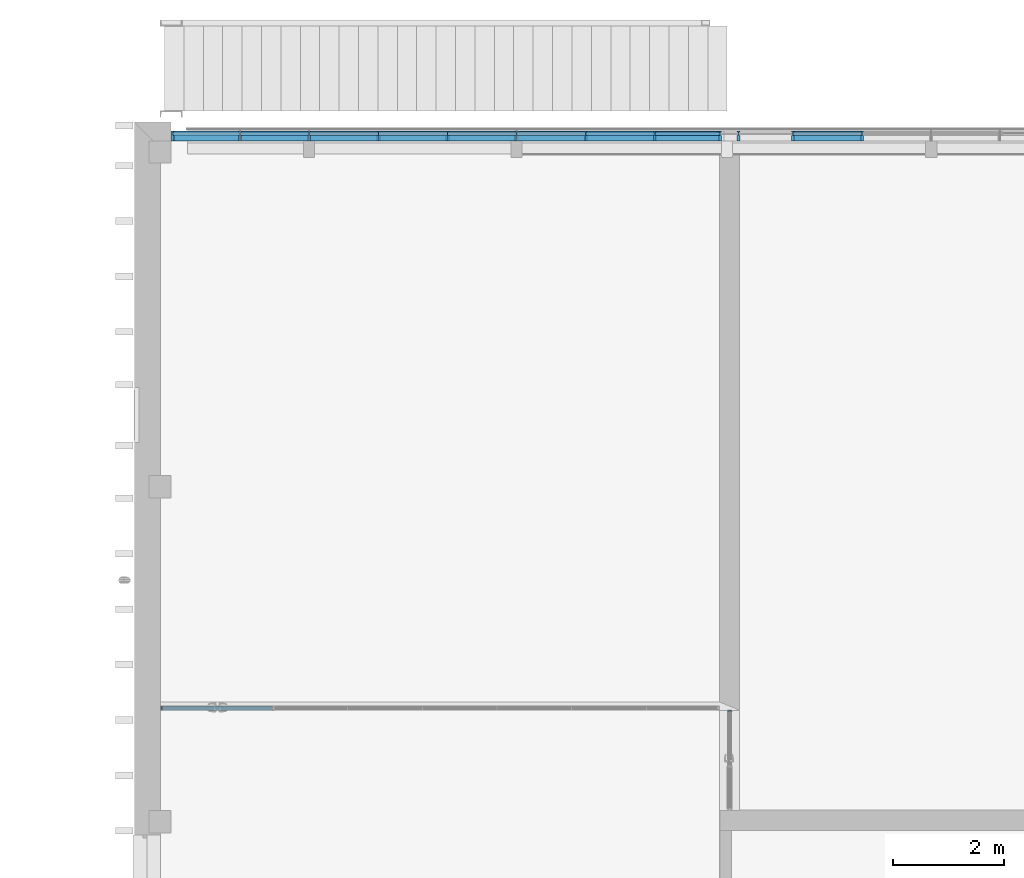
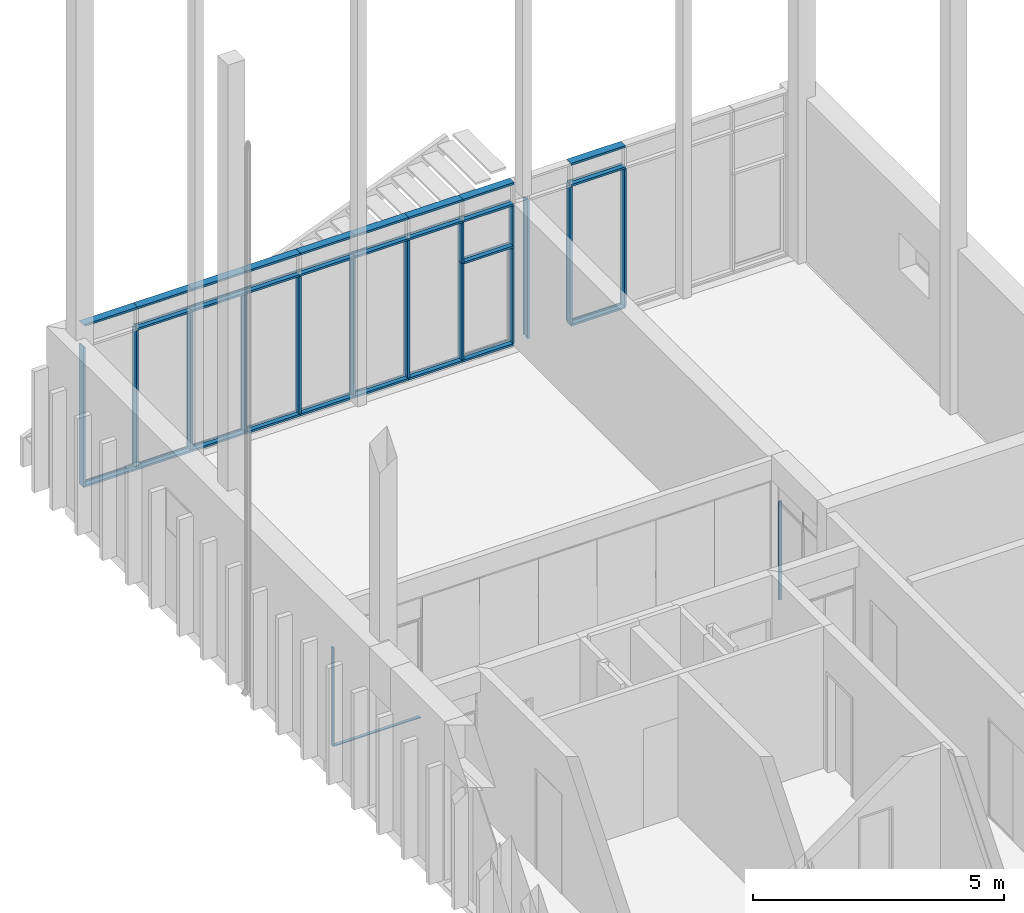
# One storey, part 6 of 89: 44 members, 3 elements without a shape of their own.
"""IFC2X3 building model written with IfcOpenShell, lengths in millimetres."""

from ifc_helpers import new_model, entity, si_unit, converted_unit, derived_unit, money_unit, direction, frame, origin_with_axes, place, context, subcontext, project, spatial, polyline, outline, extrude, clip, halfspace, material, type_object, element, aggregate, save


model = new_model("IFC2X3")

# Units and contexts
model_context = context("Model", 3, precision=0.01, world=origin_with_axes(), true_north=direction((0.0, 1.0)))
body_context = subcontext(model_context, "Body", "Model", "MODEL_VIEW")
ifc_project = project(units=[si_unit("LENGTHUNIT", "METRE", prefix="MILLI"), si_unit("AREAUNIT", "SQUARE_METRE"), si_unit("VOLUMEUNIT", "CUBIC_METRE"), converted_unit("PLANEANGLEUNIT", "DEGREE", entity("IfcPlaneAngleMeasure", 0.0174532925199), si_unit("PLANEANGLEUNIT", "RADIAN"), dimensions=[0, 0, 0, 0, 0, 0, 0]), si_unit("SOLIDANGLEUNIT", "STERADIAN"), money_unit("EUR"), converted_unit("TIMEUNIT", "Year", entity("IfcTimeMeasure", 31556926.0), si_unit("TIMEUNIT", "SECOND"), dimensions=[0, 0, 1, 0, 0, 0, 0]), si_unit("MASSUNIT", "GRAM", prefix="KILO"), si_unit("THERMODYNAMICTEMPERATUREUNIT", "DEGREE_CELSIUS"), si_unit("LUMINOUSINTENSITYUNIT", "LUMEN"), si_unit("ENERGYUNIT", "JOULE", prefix="MEGA"), derived_unit("THERMALCONDUCTANCEUNIT", [(si_unit("POWERUNIT", "WATT"), 1), (si_unit("LENGTHUNIT", "METRE"), -1), (si_unit("THERMODYNAMICTEMPERATUREUNIT", "KELVIN"), -1)]), derived_unit("SPECIFICHEATCAPACITYUNIT", [(si_unit("ENERGYUNIT", "JOULE"), 1), (si_unit("MASSUNIT", "GRAM", prefix="KILO"), -1), (si_unit("THERMODYNAMICTEMPERATUREUNIT", "KELVIN"), -1)]), derived_unit("MASSDENSITYUNIT", [(si_unit("MASSUNIT", "GRAM", prefix="KILO"), 1), (si_unit("VOLUMEUNIT", "CUBIC_METRE"), -1)])], contexts=[model_context])

# Site, building, storey
site_placement = place(None, origin_with_axes())
site = spatial("IfcSite", under=ifc_project, at=site_placement, Name="Puškini 31, Narva", CompositionType="ELEMENT")
building_placement = place(site_placement, origin_with_axes())
building = spatial("IfcBuilding", under=site, at=building_placement, Name="Narva Riigigümnaasium", CompositionType="ELEMENT")
storey_placement = place(building_placement, frame((0.0, 0.0, -3300.0), z_axis=(0.0, 0.0, 1.0), x_axis=(1.0, 0.0, 0.0)))
storey = spatial("IfcBuildingStorey", under=building, at=storey_placement, Name="1.korrus -3.3", CompositionType="ELEMENT", Elevation=-3300.0)

# Curtain wall, members
curtain_wall_type = type_object("IfcCurtainWallType", Name="Curtain Wall Type", PredefinedType="NOTDEFINED")
curtain_wall_1_placement = place(storey_placement, frame((47634.9999923, 254360.0, -1.86566340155e-05), z_axis=(0.0, 0.0, 1.0), x_axis=(1.0, 0.0, 0.0)))
curtain_wall_1 = element("IfcCurtainWall", 1, at=curtain_wall_1_placement, inside=storey, type_object=curtain_wall_type, Name="G-KLF-06")
ifc_material = material(Name="ET-04_Alumiinium")
member_type_1 = type_object("IfcMemberType", Name="Mullion Frame 50 x 176", PredefinedType="MULLION")
member_1_placement = place(curtain_wall_1_placement, frame((-135.000021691, 0.0, 0.0), z_axis=(0.0, 0.0, 1.0), x_axis=(-1.0, 0.0, 0.0)))
member_1 = element("IfcMember", 2, at=member_1_placement, type_object=member_type_1, material=ifc_material, Name="klaasfassaadi raam", ObjectType="MULLION", context=body_context, shape_type="SweptSolid", body=[
    extrude(outline(polyline([(10.0, -29.0), (10.0, 29.0), (25.0, 29.0), (25.0, 46.0), (-25.0, 46.0), (-25.0, 29.0), (-10.0, 29.0), (-10.0, -29.0), (-25.0, -29.0), (-25.0, -130.0), (25.0, -130.0), (25.0, -29.0), (10.0, -29.0)])), frame((0.0, 0.0, 50.0), z_axis=(0.0, 0.0, 1.0), x_axis=(-1.0, 0.0, 0.0)), (0.0, 0.0, 1.0), 2350.00002738),
])
member_2_placement = place(curtain_wall_1_placement, frame((-135.000021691, 0.0, 2400.00002738), z_axis=(0.0, 0.0, 1.0), x_axis=(-1.0, 0.0, 0.0)))
member_2 = element("IfcMember", 3, at=member_2_placement, type_object=member_type_1, material=ifc_material, Name="klaasfassaadi raam", ObjectType="MULLION", context=body_context, shape_type="SweptSolid", body=[
    extrude(outline(polyline([(10.0, -29.0), (10.0, 29.0), (25.0, 29.0), (25.0, 46.0), (-25.0, 46.0), (-25.0, 29.0), (-10.0, 29.0), (-10.0, -29.0), (-25.0, -29.0), (-25.0, -130.0), (25.0, -130.0), (25.0, -29.0), (10.0, -29.0)])), frame((0.0, 0.0, 0.0), z_axis=(0.0, 0.0, 1.0), x_axis=(-1.0, 0.0, 0.0)), (0.0, 0.0, 1.0), 995.000050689),
])
member_3_placement = place(curtain_wall_1_placement, frame((-6294.99999191, 0.0, 0.0), z_axis=(0.0, 0.0, 1.0), x_axis=(-1.0, 0.0, 0.0)))
member_3 = element("IfcMember", 4, at=member_3_placement, type_object=member_type_1, material=ifc_material, Name="klaasfassaadi raam", ObjectType="MULLION", context=body_context, shape_type="SweptSolid", body=[
    extrude(outline(polyline([(10.0, -29.0), (10.0, 29.0), (25.0, 29.0), (25.0, 46.0), (-25.0, 46.0), (-25.0, 29.0), (-10.0, 29.0), (-10.0, -29.0), (-25.0, -29.0), (-25.0, -130.0), (25.0, -130.0), (25.0, -29.0), (10.0, -29.0)])), frame((0.0, 0.0, 50.0), z_axis=(0.0, 0.0, 1.0), x_axis=(-1.0, 0.0, 0.0)), (0.0, 0.0, 1.0), 3345.00003901),
])
member_4_placement = place(curtain_wall_1_placement, frame((-5048.99999177, 0.0, 0.0), z_axis=(0.0, 0.0, 1.0), x_axis=(-1.0, 0.0, 0.0)))
member_4 = element("IfcMember", 5, at=member_4_placement, type_object=member_type_1, material=ifc_material, Name="klaasfassaadi raam", ObjectType="MULLION", context=body_context, shape_type="SweptSolid", body=[
    extrude(outline(polyline([(10.0, -29.0), (10.0, 29.0), (25.0, 29.0), (25.0, 46.0), (-25.0, 46.0), (-25.0, 29.0), (-10.0, 29.0), (-10.0, -29.0), (-25.0, -29.0), (-25.0, -130.0), (25.0, -130.0), (25.0, -29.0), (10.0, -29.0)])), frame((0.0, 0.0, 50.0), z_axis=(0.0, 0.0, 1.0), x_axis=(-1.0, 0.0, 0.0)), (0.0, 0.0, 1.0), 3345.00003901),
])
member_5_placement = place(curtain_wall_1_placement, frame((-2556.99999149, 0.0, 0.0), z_axis=(0.0, 0.0, 1.0), x_axis=(-1.0, 0.0, 0.0)))
member_5 = element("IfcMember", 6, at=member_5_placement, type_object=member_type_1, material=ifc_material, Name="klaasfassaadi raam", ObjectType="MULLION", context=body_context, shape_type="SweptSolid", body=[
    extrude(outline(polyline([(10.0, -29.0), (10.0, 29.0), (25.0, 29.0), (25.0, 46.0), (-25.0, 46.0), (-25.0, 29.0), (-10.0, 29.0), (-10.0, -29.0), (-25.0, -29.0), (-25.0, -130.0), (25.0, -130.0), (25.0, -29.0), (10.0, -29.0)])), frame((0.0, 0.0, 50.0), z_axis=(0.0, 0.0, 1.0), x_axis=(-1.0, 0.0, 0.0)), (0.0, 0.0, 1.0), 3345.00003901),
])
member_6_placement = place(curtain_wall_1_placement, frame((1181.00000892, 0.0, 0.0), z_axis=(0.0, 0.0, 1.0), x_axis=(-1.0, 0.0, 0.0)))
member_6 = element("IfcMember", 7, at=member_6_placement, type_object=member_type_1, material=ifc_material, Name="klaasfassaadi raam", ObjectType="MULLION", context=body_context, shape_type="SweptSolid", body=[
    extrude(outline(polyline([(10.0, -29.0), (10.0, 29.0), (25.0, 29.0), (25.0, 46.0), (-25.0, 46.0), (-25.0, 29.0), (-10.0, 29.0), (-10.0, -29.0), (-25.0, -29.0), (-25.0, -130.0), (25.0, -130.0), (25.0, -29.0), (10.0, -29.0)])), frame((0.0, 0.0, 50.0), z_axis=(0.0, 0.0, 1.0), x_axis=(-1.0, 0.0, 0.0)), (0.0, 0.0, 1.0), 3345.00003901),
])
member_7_placement = place(curtain_wall_1_placement, frame((2427.00000906, 0.0, 0.0), z_axis=(0.0, 0.0, 1.0), x_axis=(-1.0, 0.0, 0.0)))
member_7 = element("IfcMember", 8, at=member_7_placement, type_object=member_type_1, material=ifc_material, Name="klaasfassaadi raam", ObjectType="MULLION", context=body_context, shape_type="SweptSolid", body=[
    extrude(outline(polyline([(10.0, -29.0), (10.0, 29.0), (25.0, 29.0), (25.0, 46.0), (-25.0, 46.0), (-25.0, 29.0), (-10.0, 29.0), (-10.0, -29.0), (-25.0, -29.0), (-25.0, -130.0), (25.0, -130.0), (25.0, -29.0), (10.0, -29.0)])), frame((0.0, 0.0, 50.0), z_axis=(0.0, 0.0, 1.0), x_axis=(-1.0, 0.0, 0.0)), (0.0, 0.0, 1.0), 3345.00003901),
])
member_8_placement = place(curtain_wall_1_placement, frame((200.000012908, 0.0, 0.0), z_axis=(0.0, 0.0, 1.0), x_axis=(-1.0, 0.0, 0.0)))
member_8 = element("IfcMember", 9, at=member_8_placement, type_object=member_type_1, material=ifc_material, Name="klaasfassaadi raam", ObjectType="MULLION", context=body_context, shape_type="SweptSolid", body=[
    extrude(outline(polyline([(10.0, -29.0), (10.0, 29.0), (25.0, 29.0), (25.0, 46.0), (-25.0, 46.0), (-25.0, 29.0), (-10.0, 29.0), (-10.0, -29.0), (-25.0, -29.0), (-25.0, -130.0), (25.0, -130.0), (25.0, -29.0), (10.0, -29.0)])), frame((0.0, 0.0, 50.0), z_axis=(0.0, 0.0, 1.0), x_axis=(-1.0, 0.0, 0.0)), (0.0, 0.0, 1.0), 3345.00003901),
])
member_9_placement = place(curtain_wall_1_placement, frame((-3805.00000387, 0.0, 0.0), z_axis=(0.0, 0.0, 1.0), x_axis=(-1.0, 0.0, 0.0)))
member_9 = element("IfcMember", 10, at=member_9_placement, type_object=member_type_1, material=ifc_material, Name="klaasfassaadi raam", ObjectType="MULLION", context=body_context, shape_type="SweptSolid", body=[
    extrude(outline(polyline([(10.0, -29.0), (10.0, 29.0), (25.0, 29.0), (25.0, 46.0), (-25.0, 46.0), (-25.0, 29.0), (-10.0, 29.0), (-10.0, -29.0), (-25.0, -29.0), (-25.0, -130.0), (25.0, -130.0), (25.0, -29.0), (10.0, -29.0)])), frame((0.0, 0.0, 50.0), z_axis=(0.0, 0.0, 1.0), x_axis=(-1.0, 0.0, 0.0)), (0.0, 0.0, 1.0), 3345.00003901),
])
member_10_placement = place(curtain_wall_1_placement, frame((-7545.00001184, 0.0, 0.0), z_axis=(0.0, 0.0, 1.0), x_axis=(-1.0, 0.0, 0.0)))
member_10 = element("IfcMember", 11, at=member_10_placement, type_object=member_type_1, material=ifc_material, Name="klaasfassaadi raam", ObjectType="MULLION", context=body_context, shape_type="SweptSolid", body=[
    extrude(outline(polyline([(10.0, -29.0), (10.0, 29.0), (25.0, 29.0), (25.0, 46.0), (-25.0, 46.0), (-25.0, 29.0), (-10.0, 29.0), (-10.0, -29.0), (-25.0, -29.0), (-25.0, -130.0), (25.0, -130.0), (25.0, -29.0), (10.0, -29.0)])), frame((0.0, 0.0, 50.0), z_axis=(0.0, 0.0, 1.0), x_axis=(-1.0, 0.0, 0.0)), (0.0, 0.0, 1.0), 3345.00003901),
])
member_11_placement = place(curtain_wall_1_placement, frame((-8790.00001748, 0.0, 0.0), z_axis=(0.0, 0.0, 1.0), x_axis=(-1.0, 0.0, 0.0)))
member_11 = element("IfcMember", 12, at=member_11_placement, type_object=member_type_1, material=ifc_material, Name="klaasfassaadi raam", ObjectType="MULLION", context=body_context, shape_type="SweptSolid", body=[
    extrude(outline(polyline([(10.0, -29.0), (10.0, 29.0), (25.0, 29.0), (25.0, 46.0), (-25.0, 46.0), (-25.0, 29.0), (-10.0, 29.0), (-10.0, -29.0), (-25.0, -29.0), (-25.0, -130.0), (25.0, -130.0), (25.0, -29.0), (10.0, -29.0)])), frame((0.0, 0.0, 50.0), z_axis=(0.0, 0.0, 1.0), x_axis=(-1.0, 0.0, 0.0)), (0.0, 0.0, 1.0), 3345.00003901),
])
member_12_placement = place(curtain_wall_1_placement, frame((-1310.99999136, 0.0, 0.0), z_axis=(0.0, 0.0, 1.0), x_axis=(-1.0, 0.0, 0.0)))
member_12 = element("IfcMember", 13, at=member_12_placement, type_object=member_type_1, material=ifc_material, Name="klaasfassaadi raam", ObjectType="MULLION", context=body_context, shape_type="SweptSolid", body=[
    extrude(outline(polyline([(10.0, -29.0), (10.0, 29.0), (25.0, 29.0), (25.0, 46.0), (-25.0, 46.0), (-25.0, 29.0), (-10.0, 29.0), (-10.0, -29.0), (-25.0, -29.0), (-25.0, -130.0), (25.0, -130.0), (25.0, -29.0), (10.0, -29.0)])), frame((0.0, 0.0, 50.0), z_axis=(0.0, 0.0, 1.0), x_axis=(-1.0, 0.0, 0.0)), (0.0, 0.0, 1.0), 2350.00002738),
])
member_13_placement = place(curtain_wall_1_placement, frame((-1310.99999136, 0.0, 2400.00002738), z_axis=(0.0, 0.0, 1.0), x_axis=(-1.0, 0.0, 0.0)))
member_13 = element("IfcMember", 14, at=member_13_placement, type_object=member_type_1, material=ifc_material, Name="klaasfassaadi raam", ObjectType="MULLION", context=body_context, shape_type="SweptSolid", body=[
    extrude(outline(polyline([(10.0, -29.0), (10.0, 29.0), (25.0, 29.0), (25.0, 46.0), (-25.0, 46.0), (-25.0, 29.0), (-10.0, 29.0), (-10.0, -29.0), (-25.0, -29.0), (-25.0, -130.0), (25.0, -130.0), (25.0, -29.0), (10.0, -29.0)])), frame((0.0, 0.0, 0.0), z_axis=(0.0, 0.0, 1.0), x_axis=(-1.0, 0.0, 0.0)), (0.0, 0.0, 1.0), 995.000011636),
])
member_type_2 = type_object("IfcMemberType", Name="Boundary Frame 50 x 176", PredefinedType="MULLION")
member_14_placement = place(curtain_wall_1_placement, frame((-1310.99999136, 0.0, 0.0), z_axis=(1.0, 0.0, 0.0), x_axis=(0.0, 0.0, 1.0)))
member_14 = element("IfcMember", 15, at=member_14_placement, type_object=member_type_2, material=ifc_material, Name="klaasfassaadi raam", ObjectType="MULLION", context=body_context, shape_type="SweptSolid", body=[
    extrude(outline(polyline([(29.0, -35.0), (29.0, -50.0), (130.0, -50.0), (130.0, 0.0), (-46.0, 0.0), (-46.0, -50.0), (-29.0, -50.0), (-29.0, -35.0), (29.0, -35.0)])), frame((0.0, 0.0, 0.0), z_axis=(0.0, 0.0, 1.0), x_axis=(0.0, 1.0, 0.0)), (0.0, 0.0, 1.0), 1175.99996967),
])
member_15_placement = place(curtain_wall_1_placement, frame((-1310.99999136, 0.0, 3420.00003901), z_axis=(1.0, 0.0, 0.0), x_axis=(0.0, 0.0, 1.0)))
member_15 = element("IfcMember", 16, at=member_15_placement, type_object=member_type_2, material=ifc_material, Name="klaasfassaadi raam", ObjectType="MULLION", context=body_context, shape_type="SweptSolid", body=[
    extrude(outline(polyline([(29.0, 10.0), (-29.0, 10.0), (-29.0, 25.0), (-46.0, 25.0), (-46.0, -25.0), (-29.0, -25.0), (-29.0, -10.0), (29.0, -10.0), (29.0, -25.0), (130.0, -25.0), (130.0, 25.0), (29.0, 25.0), (29.0, 10.0)])), frame((0.0, 0.0, 0.0), z_axis=(0.0, 0.0, 1.0), x_axis=(0.0, 1.0, 0.0)), (0.0, 0.0, 1.0), 1175.99996967),
])
member_16_placement = place(curtain_wall_1_placement, frame((-1286.00001515, 0.0, 2400.00002738), z_axis=(1.0, 0.0, 0.0), x_axis=(0.0, 0.0, 1.0)))
member_16 = element("IfcMember", 17, at=member_16_placement, type_object=member_type_2, material=ifc_material, Name="klaasfassaadi raam", ObjectType="MULLION", context=body_context, shape_type="SweptSolid", body=[
    extrude(outline(polyline([(29.0, 10.0), (-29.0, 10.0), (-29.0, 25.0), (-46.0, 25.0), (-46.0, -25.0), (-29.0, -25.0), (-29.0, -10.0), (29.0, -10.0), (29.0, -25.0), (130.0, -25.0), (130.0, 25.0), (29.0, 25.0), (29.0, 10.0)])), frame((0.0, 0.0, 0.0), z_axis=(0.0, 0.0, 1.0), x_axis=(0.0, 1.0, 0.0)), (0.0, 0.0, 1.0), 1125.86254235),
])
member_17_placement = place(curtain_wall_1_placement, frame((-7540.99999205, 0.0, 0.0), z_axis=(1.0, 0.0, 0.0), x_axis=(0.0, 0.0, 1.0)))
member_17 = element("IfcMember", 18, at=member_17_placement, type_object=member_type_2, material=ifc_material, Name="klaasfassaadi raam", ObjectType="MULLION", context=body_context, shape_type="SweptSolid", body=[
    extrude(outline(polyline([(29.0, -35.0), (29.0, -50.0), (130.0, -50.0), (130.0, 0.0), (-46.0, 0.0), (-46.0, -50.0), (-29.0, -50.0), (-29.0, -35.0), (29.0, -35.0)])), frame((0.0, 0.0, 0.0), z_axis=(0.0, 0.0, 1.0), x_axis=(0.0, 1.0, 0.0)), (0.0, 0.0, 1.0), 1246.00000014),
])
member_18_placement = place(curtain_wall_1_placement, frame((-7540.99999205, 0.0, 3960.00001866), z_axis=(1.0, 0.0, 0.0), x_axis=(0.0, 0.0, 1.0)))
member_18 = element("IfcMember", 19, at=member_18_placement, type_object=member_type_2, material=ifc_material, Name="klaasfassaadi raam", ObjectType="MULLION", context=body_context, shape_type="SweptSolid", body=[
    extrude(outline(polyline([(29.0, 35.0), (-29.0, 35.0), (-29.0, 50.0), (-46.0, 50.0), (-46.0, 0.0), (130.0, 0.0), (130.0, 50.0), (29.0, 50.0), (29.0, 35.0)])), frame((0.0, 0.0, 0.0), z_axis=(0.0, 0.0, 1.0), x_axis=(0.0, 1.0, 0.0)), (0.0, 0.0, 1.0), 1246.00000014),
])
member_19_placement = place(curtain_wall_1_placement, frame((-6294.99999191, 0.0, 0.0), z_axis=(1.0, 0.0, 0.0), x_axis=(0.0, 0.0, 1.0)))
member_19 = element("IfcMember", 20, at=member_19_placement, type_object=member_type_2, material=ifc_material, Name="klaasfassaadi raam", ObjectType="MULLION", context=body_context, shape_type="SweptSolid", body=[
    extrude(outline(polyline([(29.0, -35.0), (29.0, -50.0), (130.0, -50.0), (130.0, 0.0), (-46.0, 0.0), (-46.0, -50.0), (-29.0, -50.0), (-29.0, -35.0), (29.0, -35.0)])), frame((0.0, 0.0, 0.0), z_axis=(0.0, 0.0, 1.0), x_axis=(0.0, 1.0, 0.0)), (0.0, 0.0, 1.0), 1246.00000014),
])
member_20_placement = place(curtain_wall_1_placement, frame((-6294.99999191, 0.0, 3960.00001866), z_axis=(1.0, 0.0, 0.0), x_axis=(0.0, 0.0, 1.0)))
member_20 = element("IfcMember", 21, at=member_20_placement, type_object=member_type_2, material=ifc_material, Name="klaasfassaadi raam", ObjectType="MULLION", context=body_context, shape_type="SweptSolid", body=[
    extrude(outline(polyline([(29.0, 35.0), (-29.0, 35.0), (-29.0, 50.0), (-46.0, 50.0), (-46.0, 0.0), (130.0, 0.0), (130.0, 50.0), (29.0, 50.0), (29.0, 35.0)])), frame((0.0, 0.0, 0.0), z_axis=(0.0, 0.0, 1.0), x_axis=(0.0, 1.0, 0.0)), (0.0, 0.0, 1.0), 1246.00000014),
])
member_21_placement = place(curtain_wall_1_placement, frame((-5048.99999177, 0.0, 3960.00001866), z_axis=(1.0, 0.0, 0.0), x_axis=(0.0, 0.0, 1.0)))
member_21 = element("IfcMember", 22, at=member_21_placement, type_object=member_type_2, material=ifc_material, Name="klaasfassaadi raam", ObjectType="MULLION", context=body_context, shape_type="SweptSolid", body=[
    extrude(outline(polyline([(29.0, 35.0), (-29.0, 35.0), (-29.0, 50.0), (-46.0, 50.0), (-46.0, 0.0), (130.0, 0.0), (130.0, 50.0), (29.0, 50.0), (29.0, 35.0)])), frame((0.0, 0.0, 0.0), z_axis=(0.0, 0.0, 1.0), x_axis=(0.0, 1.0, 0.0)), (0.0, 0.0, 1.0), 1246.00000014),
])
member_22_placement = place(curtain_wall_1_placement, frame((-3802.99999163, 0.0, 0.0), z_axis=(1.0, 0.0, 0.0), x_axis=(0.0, 0.0, 1.0)))
member_22 = element("IfcMember", 23, at=member_22_placement, type_object=member_type_2, material=ifc_material, Name="klaasfassaadi raam", ObjectType="MULLION", context=body_context, shape_type="SweptSolid", body=[
    extrude(outline(polyline([(29.0, -35.0), (29.0, -50.0), (130.0, -50.0), (130.0, 0.0), (-46.0, 0.0), (-46.0, -50.0), (-29.0, -50.0), (-29.0, -35.0), (29.0, -35.0)])), frame((0.0, 0.0, 0.0), z_axis=(0.0, 0.0, 1.0), x_axis=(0.0, 1.0, 0.0)), (0.0, 0.0, 1.0), 1246.00000014),
])
member_23_placement = place(curtain_wall_1_placement, frame((-3802.99999163, 0.0, 3960.00001866), z_axis=(1.0, 0.0, 0.0), x_axis=(0.0, 0.0, 1.0)))
member_23 = element("IfcMember", 24, at=member_23_placement, type_object=member_type_2, material=ifc_material, Name="klaasfassaadi raam", ObjectType="MULLION", context=body_context, shape_type="SweptSolid", body=[
    extrude(outline(polyline([(29.0, 35.0), (-29.0, 35.0), (-29.0, 50.0), (-46.0, 50.0), (-46.0, 0.0), (130.0, 0.0), (130.0, 50.0), (29.0, 50.0), (29.0, 35.0)])), frame((0.0, 0.0, 0.0), z_axis=(0.0, 0.0, 1.0), x_axis=(0.0, 1.0, 0.0)), (0.0, 0.0, 1.0), 1246.00000014),
])
member_24_placement = place(curtain_wall_1_placement, frame((-2556.99999149, 0.0, 0.0), z_axis=(1.0, 0.0, 0.0), x_axis=(0.0, 0.0, 1.0)))
member_24 = element("IfcMember", 25, at=member_24_placement, type_object=member_type_2, material=ifc_material, Name="klaasfassaadi raam", ObjectType="MULLION", context=body_context, shape_type="SweptSolid", body=[
    extrude(outline(polyline([(29.0, -35.0), (29.0, -50.0), (130.0, -50.0), (130.0, 0.0), (-46.0, 0.0), (-46.0, -50.0), (-29.0, -50.0), (-29.0, -35.0), (29.0, -35.0)])), frame((0.0, 0.0, 0.0), z_axis=(0.0, 0.0, 1.0), x_axis=(0.0, 1.0, 0.0)), (0.0, 0.0, 1.0), 1246.00000014),
])
member_25_placement = place(curtain_wall_1_placement, frame((-2556.99999149, 0.0, 3960.00001866), z_axis=(1.0, 0.0, 0.0), x_axis=(0.0, 0.0, 1.0)))
member_25 = element("IfcMember", 26, at=member_25_placement, type_object=member_type_2, material=ifc_material, Name="klaasfassaadi raam", ObjectType="MULLION", context=body_context, shape_type="SweptSolid", body=[
    extrude(outline(polyline([(29.0, 35.0), (-29.0, 35.0), (-29.0, 50.0), (-46.0, 50.0), (-46.0, 0.0), (130.0, 0.0), (130.0, 50.0), (29.0, 50.0), (29.0, 35.0)])), frame((0.0, 0.0, 0.0), z_axis=(0.0, 0.0, 1.0), x_axis=(0.0, 1.0, 0.0)), (0.0, 0.0, 1.0), 1246.00000014),
])
member_26_placement = place(curtain_wall_1_placement, frame((1181.00000892, 0.0, 0.0), z_axis=(1.0, 0.0, 0.0), x_axis=(0.0, 0.0, 1.0)))
member_26 = element("IfcMember", 27, at=member_26_placement, type_object=member_type_2, material=ifc_material, Name="klaasfassaadi raam", ObjectType="MULLION", context=body_context, shape_type="SweptSolid", body=[
    extrude(outline(polyline([(29.0, -35.0), (29.0, -50.0), (130.0, -50.0), (130.0, 0.0), (-46.0, 0.0), (-46.0, -50.0), (-29.0, -50.0), (-29.0, -35.0), (29.0, -35.0)])), frame((0.0, 0.0, 0.0), z_axis=(0.0, 0.0, 1.0), x_axis=(0.0, 1.0, 0.0)), (0.0, 0.0, 1.0), 1246.00000014),
])
member_27_placement = place(curtain_wall_1_placement, frame((1181.00000892, 0.0, 3960.00001866), z_axis=(1.0, 0.0, 0.0), x_axis=(0.0, 0.0, 1.0)))
member_27 = element("IfcMember", 28, at=member_27_placement, type_object=member_type_2, material=ifc_material, Name="klaasfassaadi raam", ObjectType="MULLION", context=body_context, shape_type="SweptSolid", body=[
    extrude(outline(polyline([(29.0, 35.0), (-29.0, 35.0), (-29.0, 50.0), (-46.0, 50.0), (-46.0, 0.0), (130.0, 0.0), (130.0, 50.0), (29.0, 50.0), (29.0, 35.0)])), frame((0.0, 0.0, 0.0), z_axis=(0.0, 0.0, 1.0), x_axis=(0.0, 1.0, 0.0)), (0.0, 0.0, 1.0), 1246.00000014),
])
member_28_placement = place(curtain_wall_1_placement, frame((-10032.9999923, 0.0, 0.0), z_axis=(0.0, 0.0, 1.0), x_axis=(-1.0, 0.0, 0.0)))
member_28 = element("IfcMember", 29, at=member_28_placement, type_object=member_type_2, material=ifc_material, Name="klaasfassaadi raam", ObjectType="MULLION", context=body_context, shape_type="Clipping", body=[
    clip(clip(extrude(outline(polyline([(35.0, -29.0), (35.0, 29.0), (50.0, 29.0), (50.0, 46.0), (0.0, 46.0), (0.0, -130.0), (50.0, -130.0), (50.0, -29.0), (35.0, -29.0)])), frame((0.0, 0.0, 0.0), z_axis=(0.0, 0.0, 1.0), x_axis=(-1.0, 0.0, 0.0)), (0.0, 0.0, 1.0), 3420.00003901), halfspace(frame((-1368.00001561, 0.0, 2736.00003121), z_axis=(0.4472135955, 0.0, -0.894427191), x_axis=(0.0, 1.0, 0.0)), True)), halfspace(frame((0.0, 0.0, 0.0), z_axis=(0.707106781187, 0.0, 0.707106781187), x_axis=(0.0, -1.0, 0.0)), True)),
])
member_29_placement = place(curtain_wall_1_placement, frame((-7540.99999205, 0.0, 3420.00003901), z_axis=(1.0, 0.0, 0.0), x_axis=(0.0, 0.0, 1.0)))
member_29 = element("IfcMember", 30, at=member_29_placement, type_object=member_type_2, material=ifc_material, Name="klaasfassaadi raam", ObjectType="MULLION", context=body_context, shape_type="SweptSolid", body=[
    extrude(outline(polyline([(29.0, 10.0), (-29.0, 10.0), (-29.0, 25.0), (-46.0, 25.0), (-46.0, -25.0), (-29.0, -25.0), (-29.0, -10.0), (29.0, -10.0), (29.0, -25.0), (130.0, -25.0), (130.0, 25.0), (29.0, 25.0), (29.0, 10.0)])), frame((0.0, 0.0, 0.0), z_axis=(0.0, 0.0, 1.0), x_axis=(0.0, 1.0, 0.0)), (0.0, 0.0, 1.0), 1271.00000014),
])
member_30_placement = place(curtain_wall_1_placement, frame((-2556.99999149, 0.0, 3420.00003901), z_axis=(1.0, 0.0, 0.0), x_axis=(0.0, 0.0, 1.0)))
member_30 = element("IfcMember", 31, at=member_30_placement, type_object=member_type_2, material=ifc_material, Name="klaasfassaadi raam", ObjectType="MULLION", context=body_context, shape_type="SweptSolid", body=[
    extrude(outline(polyline([(29.0, 10.0), (-29.0, 10.0), (-29.0, 25.0), (-46.0, 25.0), (-46.0, -25.0), (-29.0, -25.0), (-29.0, -10.0), (29.0, -10.0), (29.0, -25.0), (130.0, -25.0), (130.0, 25.0), (29.0, 25.0), (29.0, 10.0)])), frame((0.0, 0.0, -25.0), z_axis=(0.0, 0.0, 1.0), x_axis=(0.0, 1.0, 0.0)), (0.0, 0.0, 1.0), 1271.00000014),
])
member_31_placement = place(curtain_wall_1_placement, frame((-1310.99999136, 0.0, 3960.00001866), z_axis=(1.0, 0.0, 0.0), x_axis=(0.0, 0.0, 1.0)))
member_31 = element("IfcMember", 32, at=member_31_placement, type_object=member_type_2, material=ifc_material, Name="klaasfassaadi raam", ObjectType="MULLION", context=body_context, shape_type="SweptSolid", body=[
    extrude(outline(polyline([(29.0, 35.0), (-29.0, 35.0), (-29.0, 50.0), (-46.0, 50.0), (-46.0, 0.0), (130.0, 0.0), (130.0, 50.0), (29.0, 50.0), (29.0, 35.0)])), frame((0.0, 0.0, 0.0), z_axis=(0.0, 0.0, 1.0), x_axis=(0.0, 1.0, 0.0)), (0.0, 0.0, 1.0), 1175.99996967),
])
member_32_placement = place(curtain_wall_1_placement, frame((-5048.99999177, 0.0, 3420.00003901), z_axis=(1.0, 0.0, 0.0), x_axis=(0.0, 0.0, 1.0)))
member_32 = element("IfcMember", 33, at=member_32_placement, type_object=member_type_2, material=ifc_material, Name="klaasfassaadi raam", ObjectType="MULLION", context=body_context, shape_type="SweptSolid", body=[
    extrude(outline(polyline([(29.0, 10.0), (-29.0, 10.0), (-29.0, 25.0), (-46.0, 25.0), (-46.0, -25.0), (-29.0, -25.0), (-29.0, -10.0), (29.0, -10.0), (29.0, -25.0), (130.0, -25.0), (130.0, 25.0), (29.0, 25.0), (29.0, 10.0)])), frame((0.0, 0.0, -25.0), z_axis=(0.0, 0.0, 1.0), x_axis=(0.0, 1.0, 0.0)), (0.0, 0.0, 1.0), 1268.99998791),
])
member_33_placement = place(curtain_wall_1_placement, frame((-8786.99999219, 0.0, 3420.00003901), z_axis=(1.0, 0.0, 0.0), x_axis=(0.0, 0.0, 1.0)))
member_33 = element("IfcMember", 34, at=member_33_placement, type_object=member_type_2, material=ifc_material, Name="klaasfassaadi raam", ObjectType="MULLION", context=body_context, shape_type="SweptSolid", body=[
    extrude(outline(polyline([(29.0, 10.0), (-29.0, 10.0), (-29.0, 25.0), (-46.0, 25.0), (-46.0, -25.0), (-29.0, -25.0), (-29.0, -10.0), (29.0, -10.0), (29.0, -25.0), (130.0, -25.0), (130.0, 25.0), (29.0, 25.0), (29.0, 10.0)])), frame((0.0, 0.0, 0.0), z_axis=(0.0, 0.0, 1.0), x_axis=(0.0, 1.0, 0.0)), (0.0, 0.0, 1.0), 1241.99998034),
])
member_34_placement = place(curtain_wall_1_placement, frame((-10032.9999923, 0.0, 3960.00001866), z_axis=(1.0, 0.0, 0.0), x_axis=(0.0, 0.0, 1.0)))
member_34 = element("IfcMember", 35, at=member_34_placement, type_object=member_type_2, material=ifc_material, Name="klaasfassaadi raam", ObjectType="MULLION", context=body_context, shape_type="Clipping", body=[
    clip(extrude(outline(polyline([(29.0, 35.0), (-29.0, 35.0), (-29.0, 50.0), (-46.0, 50.0), (-46.0, 0.0), (130.0, 0.0), (130.0, 50.0), (29.0, 50.0), (29.0, 35.0)])), frame((0.0, 0.0, 0.0), z_axis=(0.0, 0.0, 1.0), x_axis=(0.0, 1.0, 0.0)), (0.0, 0.0, 1.0), 1242.99998495), halfspace(frame((0.0, 0.0, 0.0), z_axis=(0.707106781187, 0.0, 0.707106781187), x_axis=(0.0, -1.0, 0.0)), True)),
])
member_35_placement = place(curtain_wall_1_placement, frame((-6270.00000909, 0.0, 3420.00003901), z_axis=(1.0, 0.0, 0.0), x_axis=(0.0, 0.0, 1.0)))
member_35 = element("IfcMember", 36, at=member_35_placement, type_object=member_type_2, material=ifc_material, Name="klaasfassaadi raam", ObjectType="MULLION", context=body_context, shape_type="SweptSolid", body=[
    extrude(outline(polyline([(29.0, 10.0), (-29.0, 10.0), (-29.0, 25.0), (-46.0, 25.0), (-46.0, -25.0), (-29.0, -25.0), (-29.0, -10.0), (29.0, -10.0), (29.0, -25.0), (130.0, -25.0), (130.0, 25.0), (29.0, 25.0), (29.0, 10.0)])), frame((0.0, 0.0, 0.0), z_axis=(0.0, 0.0, 1.0), x_axis=(0.0, 1.0, 0.0)), (0.0, 0.0, 1.0), 1206.00001715),
])
member_36_placement = place(curtain_wall_1_placement, frame((-3778.00001212, 0.0, 3420.00003901), z_axis=(1.0, 0.0, 0.0), x_axis=(0.0, 0.0, 1.0)))
member_36 = element("IfcMember", 37, at=member_36_placement, type_object=member_type_2, material=ifc_material, Name="klaasfassaadi raam", ObjectType="MULLION", context=body_context, shape_type="SweptSolid", body=[
    extrude(outline(polyline([(29.0, 10.0), (-29.0, 10.0), (-29.0, 25.0), (-46.0, 25.0), (-46.0, -25.0), (-29.0, -25.0), (-29.0, -10.0), (29.0, -10.0), (29.0, -25.0), (130.0, -25.0), (130.0, 25.0), (29.0, 25.0), (29.0, 10.0)])), frame((0.0, 0.0, 0.0), z_axis=(0.0, 0.0, 1.0), x_axis=(0.0, 1.0, 0.0)), (0.0, 0.0, 1.0), 1203.99999296),
])
member_37_placement = place(curtain_wall_1_placement, frame((-8786.99999219, 0.0, 3960.00001866), z_axis=(1.0, 0.0, 0.0), x_axis=(0.0, 0.0, 1.0)))
member_37 = element("IfcMember", 38, at=member_37_placement, type_object=member_type_2, material=ifc_material, Name="klaasfassaadi raam", ObjectType="MULLION", context=body_context, shape_type="SweptSolid", body=[
    extrude(outline(polyline([(29.0, 35.0), (-29.0, 35.0), (-29.0, 50.0), (-46.0, 50.0), (-46.0, 0.0), (130.0, 0.0), (130.0, 50.0), (29.0, 50.0), (29.0, 35.0)])), frame((0.0, 0.0, 0.0), z_axis=(0.0, 0.0, 1.0), x_axis=(0.0, 1.0, 0.0)), (0.0, 0.0, 1.0), 1242.00000518),
])
member_38_placement = place(curtain_wall_1_placement, frame((-5048.99999177, 0.0, 0.0), z_axis=(1.0, 0.0, 0.0), x_axis=(0.0, 0.0, 1.0)))
member_38 = element("IfcMember", 39, at=member_38_placement, type_object=member_type_2, material=ifc_material, Name="klaasfassaadi raam", ObjectType="MULLION", context=body_context, shape_type="SweptSolid", body=[
    extrude(outline(polyline([(29.0, -35.0), (29.0, -50.0), (130.0, -50.0), (130.0, 0.0), (-46.0, 0.0), (-46.0, -50.0), (-29.0, -50.0), (-29.0, -35.0), (29.0, -35.0)])), frame((0.0, 0.0, 0.0), z_axis=(0.0, 0.0, 1.0), x_axis=(0.0, 1.0, 0.0)), (0.0, 0.0, 1.0), 1243.99998791),
])
member_39_placement = place(curtain_wall_1_placement, frame((-8786.99999219, 0.0, 0.0), z_axis=(1.0, 0.0, 0.0), x_axis=(0.0, 0.0, 1.0)))
member_39 = element("IfcMember", 40, at=member_39_placement, type_object=member_type_2, material=ifc_material, Name="klaasfassaadi raam", ObjectType="MULLION", context=body_context, shape_type="SweptSolid", body=[
    extrude(outline(polyline([(29.0, -35.0), (29.0, -50.0), (130.0, -50.0), (130.0, 0.0), (-46.0, 0.0), (-46.0, -50.0), (-29.0, -50.0), (-29.0, -35.0), (29.0, -35.0)])), frame((0.0, 0.0, 0.0), z_axis=(0.0, 0.0, 1.0), x_axis=(0.0, 1.0, 0.0)), (0.0, 0.0, 1.0), 1241.99998034),
])
member_40_placement = place(curtain_wall_1_placement, frame((-10032.9999923, 0.0, 0.0), z_axis=(1.0, 0.0, 0.0), x_axis=(0.0, 0.0, 1.0)))
member_40 = element("IfcMember", 41, at=member_40_placement, type_object=member_type_2, material=ifc_material, Name="klaasfassaadi raam", ObjectType="MULLION", context=body_context, shape_type="Clipping", body=[
    clip(extrude(outline(polyline([(29.0, -35.0), (29.0, -50.0), (130.0, -50.0), (130.0, 0.0), (-46.0, 0.0), (-46.0, -50.0), (-29.0, -50.0), (-29.0, -35.0), (29.0, -35.0)])), frame((0.0, 0.0, 0.0), z_axis=(0.0, 0.0, 1.0), x_axis=(0.0, 1.0, 0.0)), (0.0, 0.0, 1.0), 1242.99997484), halfspace(frame((0.0, 0.0, 0.0), z_axis=(-0.707106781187, 0.0, 0.707106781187), x_axis=(0.0, -1.0, 0.0)), True)),
])
member_41_placement = place(curtain_wall_1_placement, frame((1181.00000892, 0.0, 3420.00003901), z_axis=(1.0, 0.0, 0.0), x_axis=(0.0, 0.0, 1.0)))
member_41 = element("IfcMember", 42, at=member_41_placement, type_object=member_type_2, material=ifc_material, Name="klaasfassaadi raam", ObjectType="MULLION", context=body_context, shape_type="SweptSolid", body=[
    extrude(outline(polyline([(29.0, 10.0), (-29.0, 10.0), (-29.0, 25.0), (-46.0, 25.0), (-46.0, -25.0), (-29.0, -25.0), (-29.0, -10.0), (29.0, -10.0), (29.0, -25.0), (130.0, -25.0), (130.0, 25.0), (29.0, 25.0), (29.0, 10.0)])), frame((0.0, 0.0, 0.0), z_axis=(0.0, 0.0, 1.0), x_axis=(0.0, 1.0, 0.0)), (0.0, 0.0, 1.0), 1246.00000014),
])
aggregate(curtain_wall_1, [member_14, member_15, member_1, member_16, member_2, member_17, member_18, member_19, member_20, member_21, member_22, member_23, member_24, member_25, member_26, member_27, member_28, member_29, member_3, member_4, member_30, member_5, member_6, member_7, member_8, member_31, member_32, member_9, member_33, member_10, member_34, member_11, member_35, member_12, member_36, member_13, member_37, member_38, member_39, member_40, member_41])

# Curtain wall, member
curtain_wall_2_placement = place(storey_placement, frame((47675.0000001, 242632.20006, -3.78005973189e-05), z_axis=(0.0, 0.0, 1.0), x_axis=(1.0, 0.0, 0.0)))
curtain_wall_2 = element("IfcCurtainWall", 43, at=curtain_wall_2_placement, inside=storey, type_object=curtain_wall_type, Name="G-SKLF-10")
member_type_3 = type_object("IfcMemberType", Name="30 x 74", PredefinedType="MULLION")
member_42_placement = place(curtain_wall_2_placement, frame((0.0, 1327.79999696, 0.0), z_axis=(0.0, 0.0, 1.0), x_axis=(0.0, 1.0, 0.0)))
member_42 = element("IfcMember", 44, at=member_42_placement, type_object=member_type_3, material=ifc_material, Name="G-SKLF-10-raam", ObjectType="MULLION", context=body_context, shape_type="SweptSolid", body=[
    extrude(outline(polyline([(37.0, -30.0), (37.0, 0.0), (-37.0, 0.0), (-37.0, -30.0), (37.0, -30.0)])), frame((0.0, 0.0, 0.0), z_axis=(0.0, 0.0, 1.0), x_axis=(0.0, -1.0, 0.0)), (0.0, 0.0, 1.0), 2400.0000378),
])
aggregate(curtain_wall_2, [member_42])

# Curtain wall, members
curtain_wall_3_placement = place(storey_placement, frame((40014.000008, 243997.000057, -9.155864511e-06), z_axis=(0.0, 0.0, 1.0), x_axis=(1.0, 0.0, 0.0)))
curtain_wall_3 = element("IfcCurtainWall", 45, at=curtain_wall_3_placement, inside=storey, type_object=curtain_wall_type, Name="G-SKLF-09")
member_43_placement = place(curtain_wall_3_placement, frame((-2604.00000779, 0.0, 0.0), z_axis=(0.0, 0.0, 1.0), x_axis=(-1.0, 0.0, 0.0)))
member_43 = element("IfcMember", 46, at=member_43_placement, type_object=member_type_3, material=ifc_material, Name="G-SKLF-09-raam", ObjectType="MULLION", context=body_context, shape_type="Clipping", body=[
    clip(extrude(outline(polyline([(30.0, -34.0), (30.0, 40.0), (0.0, 40.0), (0.0, -34.0), (30.0, -34.0)])), frame((0.0, 0.0, 0.0), z_axis=(0.0, 0.0, 1.0), x_axis=(-1.0, 0.0, 0.0)), (0.0, 0.0, 1.0), 2400.00000716), halfspace(frame((0.0, 0.0, 0.0), z_axis=(0.707106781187, 0.0, 0.707106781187), x_axis=(0.0, -1.0, 0.0)), True)),
])
member_type_4 = type_object("IfcMemberType", Name="20 x 74", PredefinedType="MULLION")
member_44_placement = place(curtain_wall_3_placement, frame((-2604.00000779, 0.0, 0.0), z_axis=(1.0, 0.0, 0.0), x_axis=(0.0, 0.0, 1.0)))
member_44 = element("IfcMember", 47, at=member_44_placement, type_object=member_type_4, material=ifc_material, Name="G-SKLF-39-raam", ObjectType="MULLION", context=body_context, shape_type="Clipping", body=[
    clip(extrude(outline(polyline([(37.0, -20.0), (37.0, 0.0), (-37.0, 0.0), (-37.0, -20.0), (37.0, -20.0)])), frame((0.0, 0.0, 0.0), z_axis=(0.0, 0.0, 1.0), x_axis=(0.0, 1.0, 0.0)), (0.0, 0.0, 1.0), 2018.0), halfspace(frame((0.0, 0.0, 0.0), z_axis=(-0.707106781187, 0.0, 0.707106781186), x_axis=(0.0, -1.0, 0.0)), True)),
])
aggregate(curtain_wall_3, [member_43, member_44])

save(model, "model.ifc")
